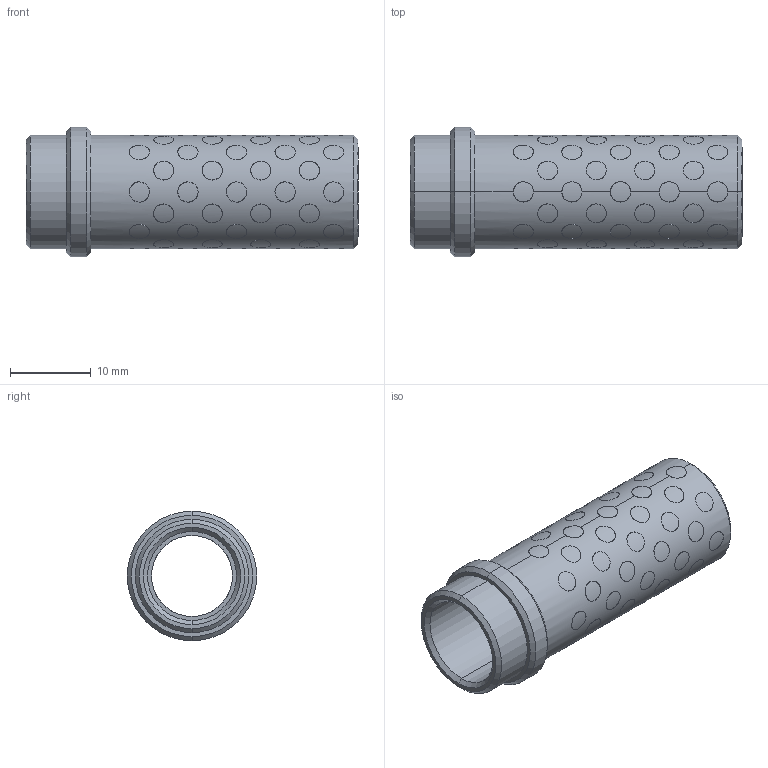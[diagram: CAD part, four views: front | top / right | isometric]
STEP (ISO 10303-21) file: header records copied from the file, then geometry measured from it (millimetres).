
FILE_DESCRIPTION((''),'2;1');
FILE_NAME('G31210036','2018-01-25T',('MANU'),(''),'PRO/ENGINEER BY PARAMETRIC TECHNOLOGY CORPORATION, 2012130','PRO/ENGINEER BY PARAMETRIC TECHNOLOGY CORPORATION, 2012130','');
FILE_SCHEMA(('CONFIG_CONTROL_DESIGN'));
Length unit declared in the file: millimetre
Products named in the file (1): G31210036
Bounding box: 41 x 16 x 16 mm (x, y, z)
Volume: 3011.2 mm3; surface area: 5586.9 mm2
Topology: 73 solids, 73 shells, 459 faces, 978 edges, 648 vertices
Faces by surface type: cylinder 442, cone 12, plane 5
Entity records: 20066 total; most frequent: CARTESIAN_POINT 11089, ORIENTED_EDGE 1956, DIRECTION 1312, EDGE_CURVE 978, VERTEX_POINT 648, B_SPLINE_CURVE_WITH_KNOTS 616, EDGE_LOOP 588, AXIS2_PLACEMENT_3D 491
